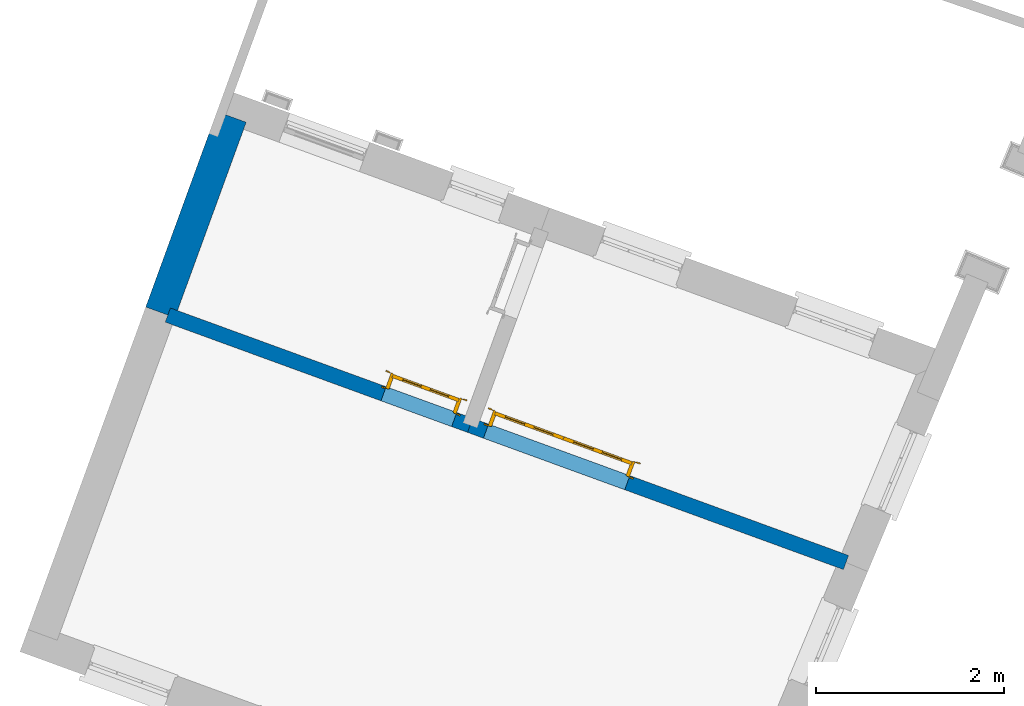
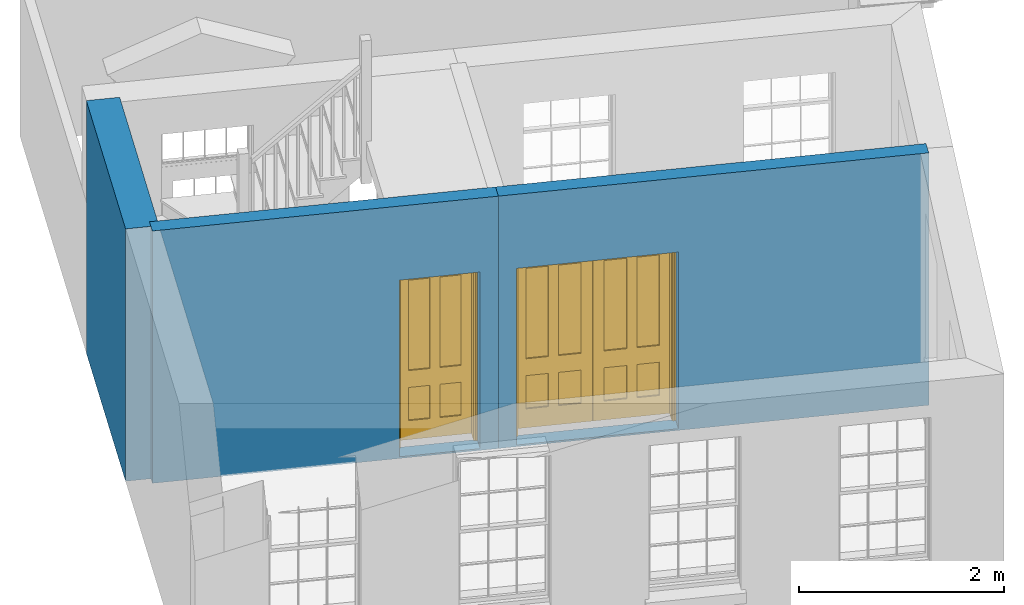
# One storey, part 2 of 6: 3 walls, 2 doors, 2 openings.
"""IFC4 building model written with IfcOpenShell, lengths in metres."""

from ifc_helpers import new_model, si_unit, frame, origin, origin_with_axes, place, context, subcontext, project, spatial, polyline, outline, extrude, faceted_brep, source, transform, mapped, material, layer, layer_set, layer_usage, type_object, type_shapes, element, fill, save


model = new_model("IFC4")

# Units and contexts
model_context = context("Model", 3, world=origin_with_axes())
body_context = subcontext(model_context, "Body", "Model", "MODEL_VIEW")
ifc_project = project(units=[si_unit("PLANEANGLEUNIT", "RADIAN"), si_unit("MASSUNIT", "GRAM", prefix="KILO"), si_unit("FORCEUNIT", "NEWTON", prefix="KILO"), si_unit("LENGTHUNIT", "METRE"), si_unit("AREAUNIT", "SQUARE_METRE"), si_unit("VOLUMEUNIT", "CUBIC_METRE")], contexts=[model_context, model_context])

# Sites, building, storey
site_1_placement = place(None, origin_with_axes())
site_1 = spatial("IfcSite", under=ifc_project, at=site_1_placement, Name="Tamar")
site_2_placement = place(site_1_placement, origin_with_axes())
site_2 = spatial("IfcSite", under=site_1, at=site_2_placement, Name="Site plot-13", CompositionType="ELEMENT")
building_placement = place(None, origin_with_axes())
building = spatial("IfcBuilding", under=site_2, at=building_placement, Name="Building plot-13", CompositionType="ELEMENT")
storey_placement = place(None, frame((0.0, 0.0, 26.0), z_axis=(0.0, 0.0, 1.0), x_axis=(1.0, 0.0, 0.0)))
storey = spatial("IfcBuildingStorey", under=building, at=storey_placement, Name="plot-13 0", CompositionType="ELEMENT", Elevation=26.0)

# Wall
ifc_material_1 = material(Name="Masonry")
ifc_layer_1 = layer(ifc_material_1, 0.33, ventilated=False)
ifc_layer_set_1 = layer_set([ifc_layer_1], Name="party_0.08_0.25")
ifc_layer_usage_1 = layer_usage(ifc_layer_set_1, "AXIS2", "POSITIVE", -0.25)
wall_type_1 = type_object("IfcWallType", Name="party_0.08_0.25", PredefinedType="SOLIDWALL", material=ifc_layer_set_1)
wall_1_placement = place(storey_placement, frame((243.29232712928, 304.172365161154, 0.0), z_axis=(0.0, 0.0, 1.0), x_axis=(-0.342734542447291, -0.939432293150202, 0.0)))
element("IfcWall", 1, at=wall_1_placement, inside=storey, type_object=wall_type_1, material=ifc_layer_usage_1, Name="party", context=body_context, shape_type="SweptSolid", body=[
    extrude(outline(polyline([(-2.44573658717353e-14, 0.0799999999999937), (3.67904406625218e-15, -0.249999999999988), (2.21233911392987, -0.249999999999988), (2.21233911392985, 0.079999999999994), (-2.44573658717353e-14, 0.0799999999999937)])), origin_with_axes(), (0.0, 0.0, 1.0), 3.0),
])

# Wall, opening, door
ifc_material_2 = material(Name="Masonry")
ifc_layer_2 = layer(ifc_material_2, 0.16, ventilated=False)
ifc_layer_set_2 = layer_set([ifc_layer_2], Name="interior_0.08_0.08")
ifc_layer_usage_2 = layer_usage(ifc_layer_set_2, "AXIS2", "POSITIVE", -0.08)
wall_type_2 = type_object("IfcWallType", Name="interior_0.08_0.08", PredefinedType="SOLIDWALL", material=ifc_layer_set_2)
wall_2_placement = place(storey_placement, frame((242.534082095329, 302.094022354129, 0.0), z_axis=(0.0, 0.0, 1.0), x_axis=(0.93943229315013, -0.342734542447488, 0.0)))
wall_2 = element("IfcWall", 2, at=wall_2_placement, inside=storey, type_object=wall_type_2, material=ifc_layer_usage_2, Name="interior", context=body_context, shape_type="SweptSolid", body=[
    extrude(outline(polyline([(-4.82679201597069e-15, 0.0799999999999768), (4.81699484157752e-15, -0.0799999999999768), (3.4219207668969, -0.0799999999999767), (3.42192076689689, 0.0799999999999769), (-4.82679201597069e-15, 0.0799999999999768)])), origin_with_axes(), (0.0, 0.0, 1.0), 3.0),
])
opening_1_placement = place(wall_2_placement, frame((2.44192076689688, 0.0, 0.0199999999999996)))
opening_1 = element("IfcOpeningElement", 3, at=opening_1_placement, cuts=wall_2, Name="My Opening", ObjectType="Opening", context=body_context, shape_type="SweptSolid", body=[
    extrude(outline(polyline([(0.0, -0.100000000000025), (0.799999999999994, -0.100000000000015), (0.800000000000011, 1.09999999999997), (1.73194791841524e-14, 1.09999999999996), (0.0, -0.100000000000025)])), origin_with_axes(), (0.0, 0.0, 1.0), 2.1),
])
door_type_1 = type_object("IfcDoorType", Name="door_inside", OperationType="SINGLE_SWING_LEFT", PredefinedType="NOTDEFINED")
shared_shape_1 = source(origin(), body_context, "Body", "Brep", [
    faceted_brep([(0.773, 0.33, 1.895), (0.66, 0.33, 1.895), (0.66, 0.33, 2.073), (0.773, 0.33, 2.073), (0.773, 0.33, 0.82), (0.66, 0.33, 0.82), (0.45, 0.33, 1.895), (0.45, 0.33, 2.073), (0.773, 0.33, 0.62), (0.66, 0.33, 0.62), (0.66, 0.315, 0.82), (0.66, 0.315, 1.895), (0.45, 0.315, 1.895), (0.35, 0.33, 1.895), (0.35, 0.33, 2.073), (0.773, 0.33, 0.225), (0.66, 0.33, 0.225), (0.45, 0.33, 0.62), (0.45, 0.33, 0.82), (0.45, 0.315, 0.82), (0.35, 0.33, 0.82), (0.14, 0.33, 2.073), (0.14, 0.33, 1.895), (0.773, 0.33, 0.0), (0.66, 0.33, 0.0), (0.66, 0.315, 0.225), (0.66, 0.315, 0.62), (0.45, 0.315, 0.62), (0.35, 0.33, 0.62), (0.35, 0.315, 0.82), (0.35, 0.315, 1.895), (0.14, 0.315, 1.895), (0.027, 0.33, 2.073), (0.027, 0.33, 1.895), (0.773, 0.292, 0.0), (0.66, 0.292, 0.0), (0.45, 0.33, 0.0), (0.45, 0.33, 0.225), (0.45, 0.315, 0.225), (0.35, 0.33, 0.225), (0.14, 0.33, 0.82), (0.14, 0.33, 0.62), (0.14, 0.315, 0.82), (0.027, 0.33, 0.82), (0.773, 0.292, 0.225), (0.66, 0.292, 0.225), (0.45, 0.292, 0.0), (0.35, 0.33, 0.0), (0.35, 0.315, 0.225), (0.35, 0.315, 0.62), (0.14, 0.315, 0.62), (0.027, 0.33, 0.62), (0.773, 0.292, 0.62), (0.66, 0.292, 0.62), (0.45, 0.292, 0.225), (0.35, 0.292, 0.0), (0.14, 0.33, 0.225), (0.14, 0.33, 0.0), (0.14, 0.315, 0.225), (0.027, 0.33, 0.225), (0.773, 0.292, 0.82), (0.66, 0.292, 0.82), (0.66, 0.307, 0.62), (0.66, 0.307, 0.225), (0.45, 0.307, 0.225), (0.35, 0.292, 0.225), (0.14, 0.292, 0.0), (0.027, 0.33, 0.0), (0.773, 0.292, 1.895), (0.66, 0.292, 1.895), (0.45, 0.292, 0.62), (0.45, 0.292, 0.82), (0.45, 0.307, 0.62), (0.35, 0.292, 0.62), (0.14, 0.292, 0.225), (0.027, 0.292, 0.0), (0.773, 0.292, 2.073), (0.66, 0.292, 2.073), (0.66, 0.307, 1.895), (0.66, 0.307, 0.82), (0.45, 0.307, 0.82), (0.35, 0.292, 0.82), (0.35, 0.307, 0.62), (0.35, 0.307, 0.225), (0.14, 0.307, 0.225), (0.027, 0.292, 0.225), (0.45, 0.292, 1.895), (0.45, 0.292, 2.073), (0.45, 0.307, 1.895), (0.35, 0.292, 1.895), (0.14, 0.292, 0.82), (0.14, 0.292, 0.62), (0.14, 0.307, 0.62), (0.027, 0.292, 0.62), (0.35, 0.292, 2.073), (0.35, 0.307, 1.895), (0.35, 0.307, 0.82), (0.14, 0.307, 0.82), (0.027, 0.292, 0.82), (0.14, 0.292, 2.073), (0.14, 0.292, 1.895), (0.14, 0.307, 1.895), (0.027, 0.292, 1.895), (0.027, 0.292, 2.073), (0.02, 0.335, 0.0), (0.005, 0.34, 0.0), (0.005, 0.34, 2.095), (0.02, 0.335, 2.08), (0.02, 0.33, 0.0), (0.0, 0.335, 0.0), (0.0, 0.335, 2.1), (0.795, 0.34, 2.095), (0.78, 0.335, 2.08), (0.02, 0.33, 2.08), (0.0, 0.33, 0.0), (-0.032, 0.345, 0.0), (-0.032, 0.345, 2.132), (0.8, 0.335, 2.1), (0.795, 0.34, 0.0), (0.78, 0.335, 0.0), (0.78, 0.33, 2.08), (0.04, 0.29, 0.0), (0.025, 0.29, 0.0), (0.025, 0.29, 2.075), (0.04, 0.29, 2.06), (-0.04, 0.34, 0.0), (-0.04, 0.34, 2.14), (0.832, 0.345, 2.132), (0.8, 0.335, 0.0), (0.78, 0.33, 0.0), (0.8, 0.33, 0.0), (0.86, 0.33, 0.0), (0.86, 0.33, 2.16), (0.8, 0.33, 2.1), (-0.06, 0.33, 2.16), (0.0, 0.33, 2.1), (-0.06, 0.33, 0.0), (-0.04, 0.345, 0.0), (-0.04, 0.345, 2.14), (0.84, 0.34, 2.14), (0.832, 0.345, 0.0), (0.84, 0.34, 0.0), (0.86, 0.345, 0.0), (0.86, 0.345, 2.16), (-0.06, 0.345, 2.16), (-0.06, 0.345, 0.0), (0.84, 0.345, 0.0), (0.84, 0.345, 2.14), (-0.025, 0.155, 0.0), (-0.025, 0.16, 0.0), (-0.025, 0.16, 2.125), (-0.025, 0.155, 2.125), (-0.017, 0.155, 0.0), (-0.017, 0.155, 2.117), (0.825, 0.16, 2.125), (0.825, 0.155, 2.125), (0.825, 0.155, 0.0), (0.845, 0.155, 0.0), (-0.045, 0.155, 2.145), (-0.045, 0.155, 0.0), (0.845, 0.155, 2.145), (0.015, 0.165, 0.0), (0.015, 0.165, 2.085), (0.817, 0.155, 2.117), (0.825, 0.16, 0.0), (0.845, 0.17, 0.0), (0.845, 0.17, 2.145), (-0.045, 0.17, 2.145), (-0.045, 0.17, 0.0), (0.02, 0.16, 0.0), (0.02, 0.16, 2.08), (0.785, 0.165, 2.085), (0.817, 0.155, 0.0), (0.8, 0.17, 0.0), (0.8, 0.17, 2.1), (0.0, 0.17, 2.1), (0.0, 0.17, 0.0), (0.035, 0.165, 0.0), (0.035, 0.165, 2.065), (0.78, 0.16, 2.08), (0.785, 0.165, 0.0), (0.775, 0.29, 2.075), (0.76, 0.29, 2.06), (0.035, 0.17, 2.065), (0.035, 0.17, 0.0), (0.765, 0.165, 2.065), (0.78, 0.16, 0.0), (0.765, 0.17, 0.0), (0.765, 0.17, 2.065), (0.765, 0.165, 0.0), (0.04, 0.17, 2.06), (0.04, 0.17, 0.0), (0.76, 0.17, 2.06), (0.76, 0.17, 0.0), (0.76, 0.29, 0.0), (0.775, 0.29, 0.0), (0.025, 0.33, 0.0), (0.025, 0.33, 2.075), (0.775, 0.33, 0.0), (0.775, 0.33, 2.075)], [[[0, 1, 2, 3]], [[1, 0, 4, 5]], [[1, 6, 7, 2]], [[8, 9, 5, 4]], [[1, 5, 10, 11]], [[6, 1, 11, 12]], [[6, 13, 14, 7]], [[15, 16, 9, 8]], [[9, 17, 18, 5]], [[5, 18, 19, 10]], [[10, 19, 12, 11]], [[18, 6, 12, 19]], [[18, 20, 13, 6]], [[21, 14, 13, 22]], [[23, 24, 16, 15]], [[9, 16, 25, 26]], [[17, 9, 26, 27]], [[17, 28, 20, 18]], [[13, 20, 29, 30]], [[22, 13, 30, 31]], [[32, 21, 22, 33]], [[34, 35, 24, 23]], [[24, 36, 37, 16]], [[16, 37, 38, 25]], [[25, 38, 27, 26]], [[37, 17, 27, 38]], [[37, 39, 28, 17]], [[40, 20, 28, 41]], [[20, 40, 42, 29]], [[31, 30, 29, 42]], [[40, 22, 31, 42]], [[33, 22, 40, 43]], [[35, 34, 44, 45]], [[35, 46, 36, 24]], [[36, 47, 39, 37]], [[28, 39, 48, 49]], [[41, 28, 49, 50]], [[43, 40, 41, 51]], [[45, 44, 52, 53]], [[46, 35, 45, 54]], [[46, 55, 47, 36]], [[56, 39, 47, 57]], [[39, 56, 58, 48]], [[50, 49, 48, 58]], [[56, 41, 50, 58]], [[51, 41, 56, 59]], [[53, 52, 60, 61]], [[45, 53, 62, 63]], [[54, 45, 63, 64]], [[55, 46, 54, 65]], [[55, 66, 57, 47]], [[59, 56, 57, 67]], [[61, 60, 68, 69]], [[70, 53, 61, 71]], [[53, 70, 72, 62]], [[72, 64, 63, 62]], [[70, 54, 64, 72]], [[65, 54, 70, 73]], [[65, 74, 66, 55]], [[67, 57, 66, 75]], [[69, 68, 76, 77]], [[61, 69, 78, 79]], [[71, 61, 79, 80]], [[73, 70, 71, 81]], [[65, 73, 82, 83]], [[74, 65, 83, 84]], [[74, 85, 75, 66]], [[86, 69, 77, 87]], [[69, 86, 88, 78]], [[88, 80, 79, 78]], [[86, 71, 80, 88]], [[81, 71, 86, 89]], [[73, 81, 90, 91]], [[73, 91, 92, 82]], [[83, 82, 92, 84]], [[91, 74, 84, 92]], [[91, 93, 85, 74]], [[89, 86, 87, 94]], [[81, 89, 95, 96]], [[90, 81, 96, 97]], [[90, 98, 93, 91]], [[94, 99, 100, 89]], [[89, 100, 101, 95]], [[101, 97, 96, 95]], [[100, 90, 97, 101]], [[100, 102, 98, 90]], [[99, 103, 102, 100]], [[32, 103, 99, 21]], [[102, 103, 32, 33]], [[98, 102, 33, 43]], [[21, 99, 94, 14]], [[94, 87, 7, 14]], [[7, 87, 77, 2]], [[76, 3, 2, 77]], [[43, 51, 93, 98]], [[51, 59, 85, 93]], [[67, 75, 85, 59]], [[34, 23, 15, 44]], [[44, 15, 8, 52]], [[52, 8, 4, 60]], [[0, 68, 60, 4]], [[0, 3, 76, 68]], [[104, 105, 106, 107]], [[104, 108, 109, 105]], [[105, 109, 110, 106]], [[107, 106, 111, 112]], [[107, 113, 108, 104]], [[114, 109, 108]], [[109, 115, 116, 110]], [[106, 110, 117, 111]], [[112, 111, 118, 119]], [[113, 107, 112, 120]], [[121, 122, 123, 124]], [[115, 109, 114, 125]], [[115, 125, 126, 116]], [[110, 116, 127, 117]], [[111, 117, 128, 118]], [[118, 128, 129, 119]], [[120, 112, 119, 129]], [[130, 129, 128]], [[130, 131, 132, 133]], [[133, 132, 134, 135]], [[135, 134, 136, 114]], [[136, 125, 114]], [[125, 137, 138, 126]], [[116, 126, 139, 127]], [[117, 127, 140, 128]], [[141, 130, 128, 140]], [[131, 130, 141]], [[131, 142, 143, 132]], [[132, 143, 144, 134]], [[134, 144, 145, 136]], [[137, 125, 136, 145]], [[143, 142, 146]], [[143, 146, 147]], [[137, 145, 144]], [[143, 147, 138]], [[138, 137, 144]], [[143, 138, 144]], [[126, 138, 147, 139]], [[127, 139, 141, 140]], [[142, 131, 141, 146]], [[139, 147, 146, 141]], [[148, 149, 150, 151]], [[149, 152, 153, 150]], [[151, 150, 154, 155]], [[155, 156, 157]], [[158, 159, 148]], [[158, 148, 151]], [[155, 157, 160]], [[158, 151, 155]], [[155, 160, 158]], [[152, 161, 162, 153]], [[150, 153, 163, 154]], [[155, 154, 164, 156]], [[156, 164, 165, 157]], [[157, 165, 166, 160]], [[160, 166, 167, 158]], [[158, 167, 168, 159]], [[161, 169, 170, 162]], [[153, 162, 171, 163]], [[154, 163, 172, 164]], [[165, 164, 173]], [[165, 173, 174, 166]], [[166, 174, 175, 167]], [[167, 175, 176, 168]], [[169, 177, 178, 170]], [[162, 170, 179, 171]], [[163, 171, 180, 172]], [[172, 180, 173, 164]], [[124, 123, 181, 182]], [[183, 178, 177, 184]], [[170, 178, 185, 179]], [[171, 179, 186, 180]], [[187, 173, 180]], [[185, 188, 187, 189]], [[188, 185, 178, 183]], [[179, 185, 189, 186]], [[189, 187, 180, 186]], [[190, 183, 184, 191]], [[192, 188, 183, 190]], [[191, 184, 122, 121]], [[124, 190, 191, 121]], [[193, 187, 188, 192]], [[182, 192, 190, 124]], [[184, 176, 122]], [[194, 195, 187, 193]], [[192, 182, 194, 193]], [[161, 176, 184]], [[114, 108, 122, 176]], [[173, 187, 195]], [[152, 149, 176, 161]], [[169, 161, 184, 177]], [[196, 122, 108]], [[176, 175, 135, 114]], [[173, 195, 129, 130]], [[176, 149, 168]], [[123, 122, 196, 197]], [[196, 108, 113, 197]], [[175, 174, 133, 135]], [[198, 129, 195]], [[133, 174, 173, 130]], [[159, 168, 149, 148]], [[181, 123, 197, 199]], [[197, 113, 120, 199]], [[199, 120, 129, 198]], [[195, 181, 199, 198]], [[195, 194, 182, 181]]]),
])
type_shapes(door_type_1, [shared_shape_1])
door_1_placement = place(storey_placement, frame((244.793827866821, 301.163148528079, 0.0199999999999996), z_axis=(0.0, 0.0, 1.0), x_axis=(0.751545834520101, -0.274187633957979, 0.0)))
door_1 = element("IfcDoor", 4, at=door_1_placement, inside=storey, type_object=door_type_1, Name="living inside door", OverallHeight=2.1, OverallWidth=0.8, context=body_context, shape_type="MappedRepresentation", body=[
    mapped(shared_shape_1, transform((0.0, 0.0, 0.0), scale=1.0)),
])
fill(opening_1, door_1)

wall_3_placement = place(storey_placement, frame((245.748744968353, 300.921211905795, 0.0), z_axis=(0.0, 0.0, 1.0), x_axis=(0.939432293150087, -0.342734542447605, 0.0)))
wall_3 = element("IfcWall", 5, at=wall_3_placement, inside=storey, type_object=wall_type_2, material=ifc_layer_usage_2, Name="interior", context=body_context, shape_type="SweptSolid", body=[
    extrude(outline(polyline([(1.18354351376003e-14, 0.0799999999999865), (-1.18807594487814e-14, -0.0799999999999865), (4.25563590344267, -0.0799999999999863), (4.25563590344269, 0.0799999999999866), (1.18354351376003e-14, 0.0799999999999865)])), origin_with_axes(), (0.0, 0.0, 1.0), 3.0),
])
opening_2_placement = place(wall_3_placement, frame((0.17999999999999, 0.0, 0.0199999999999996)))
opening_2 = element("IfcOpeningElement", 6, at=opening_2_placement, cuts=wall_3, Name="My Opening", ObjectType="Opening", context=body_context, shape_type="SweptSolid", body=[
    extrude(outline(polyline([(0.0, -0.0999999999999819), (1.60000000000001, -0.099999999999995), (1.59999999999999, 1.10000000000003), (-2.66453525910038e-14, 1.10000000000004), (0.0, -0.0999999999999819)])), origin_with_axes(), (0.0, 0.0, 1.0), 2.1),
])
door_type_2 = type_object("IfcDoorType", Name="door_inside_double", OperationType="SINGLE_SWING_LEFT", PredefinedType="NOTDEFINED")
shared_shape_2 = source(origin(), body_context, "Body", "Brep", [
    faceted_brep([(0.14, 0.307, 1.895), (0.14, 0.307, 0.82), (0.363, 0.307, 0.82), (0.363, 0.307, 1.895), (0.14, 0.292, 1.895), (0.14, 0.292, 0.82), (0.363, 0.292, 0.82), (0.363, 0.292, 1.895), (0.027, 0.292, 1.895), (0.027, 0.292, 0.82), (0.363, 0.292, 0.62), (0.14, 0.292, 0.62), (0.463, 0.292, 0.82), (0.463, 0.292, 1.895), (0.363, 0.292, 2.073), (0.14, 0.292, 2.073), (0.027, 0.292, 2.073), (0.027, 0.33, 1.895), (0.027, 0.33, 0.82), (0.027, 0.292, 0.62), (0.463, 0.292, 0.62), (0.14, 0.307, 0.62), (0.363, 0.307, 0.62), (0.463, 0.307, 0.82), (0.463, 0.307, 1.895), (0.463, 0.292, 2.073), (0.14, 0.33, 2.073), (0.363, 0.33, 2.073), (0.027, 0.33, 2.073), (0.14, 0.33, 1.895), (0.14, 0.33, 0.82), (0.027, 0.33, 0.62), (0.027, 0.292, 0.225), (0.14, 0.292, 0.225), (0.363, 0.292, 0.225), (0.463, 0.292, 0.225), (0.686, 0.292, 0.62), (0.686, 0.292, 0.82), (0.14, 0.307, 0.225), (0.363, 0.307, 0.225), (0.686, 0.307, 0.82), (0.686, 0.307, 1.895), (0.686, 0.292, 1.895), (0.686, 0.292, 2.073), (0.463, 0.33, 2.073), (0.363, 0.33, 1.895), (0.14, 0.315, 1.895), (0.14, 0.315, 0.82), (0.14, 0.33, 0.62), (0.027, 0.33, 0.225), (0.027, 0.292, 0.0), (0.14, 0.292, 0.0), (0.363, 0.292, 0.0), (0.463, 0.292, 0.0), (0.463, 0.307, 0.225), (0.463, 0.307, 0.62), (0.686, 0.307, 0.62), (0.799, 0.292, 0.62), (0.799, 0.292, 0.82), (0.799, 0.292, 1.895), (0.799, 0.292, 2.073), (0.686, 0.33, 2.073), (0.463, 0.33, 1.895), (0.363, 0.315, 1.895), (0.363, 0.315, 0.82), (0.363, 0.33, 0.82), (0.363, 0.33, 0.62), (0.14, 0.33, 0.225), (0.027, 0.33, 0.0), (0.14, 0.33, 0.0), (0.363, 0.33, 0.0), (0.463, 0.33, 0.0), (0.686, 0.292, 0.0), (0.686, 0.292, 0.225), (0.686, 0.307, 0.225), (0.799, 0.292, 0.225), (0.799, 0.33, 0.62), (0.799, 0.33, 0.82), (0.799, 0.33, 1.895), (0.799, 0.33, 2.073), (0.686, 0.33, 1.895), (0.463, 0.33, 0.82), (0.463, 0.33, 0.62), (0.363, 0.315, 0.62), (0.14, 0.315, 0.62), (0.14, 0.315, 0.225), (0.363, 0.33, 0.225), (0.463, 0.33, 0.225), (0.686, 0.33, 0.0), (0.799, 0.292, 0.0), (0.799, 0.33, 0.225), (0.686, 0.33, 0.62), (0.686, 0.33, 0.82), (0.686, 0.315, 1.895), (0.463, 0.315, 1.895), (0.463, 0.315, 0.82), (0.363, 0.315, 0.225), (0.686, 0.33, 0.225), (0.799, 0.33, 0.0), (0.686, 0.315, 0.82), (0.463, 0.315, 0.62), (0.463, 0.315, 0.225), (0.686, 0.315, 0.62), (0.686, 0.315, 0.225), (1.46, 0.33, 1.895), (1.237, 0.33, 1.895), (1.237, 0.33, 2.073), (1.46, 0.33, 2.073), (1.46, 0.315, 1.895), (1.237, 0.315, 1.895), (1.137, 0.33, 1.895), (1.137, 0.33, 2.073), (1.237, 0.292, 2.073), (1.46, 0.292, 2.073), (1.573, 0.33, 1.895), (1.573, 0.33, 2.073), (1.46, 0.33, 0.82), (1.46, 0.315, 0.82), (1.237, 0.315, 0.82), (1.237, 0.33, 0.82), (1.137, 0.33, 0.82), (0.914, 0.33, 2.073), (0.914, 0.33, 1.895), (1.137, 0.292, 2.073), (1.237, 0.292, 1.895), (1.46, 0.292, 1.895), (1.573, 0.292, 2.073), (1.573, 0.33, 0.82), (1.573, 0.292, 1.895), (1.237, 0.33, 0.62), (1.137, 0.33, 0.62), (1.137, 0.315, 0.82), (1.137, 0.315, 1.895), (0.914, 0.292, 2.073), (0.914, 0.315, 1.895), (0.801, 0.33, 2.073), (0.801, 0.33, 1.895), (1.137, 0.292, 1.895), (1.237, 0.307, 1.895), (1.46, 0.307, 1.895), (1.573, 0.292, 0.82), (1.573, 0.33, 0.62), (1.46, 0.33, 0.62), (1.237, 0.33, 0.225), (1.137, 0.33, 0.225), (0.914, 0.33, 0.82), (0.914, 0.33, 0.62), (0.914, 0.315, 0.82), (0.801, 0.292, 2.073), (0.914, 0.292, 1.895), (0.801, 0.33, 0.82), (0.801, 0.292, 1.895), (1.137, 0.292, 0.82), (1.237, 0.292, 0.82), (1.237, 0.307, 0.82), (1.46, 0.307, 0.82), (1.46, 0.292, 0.82), (1.573, 0.292, 0.62), (1.573, 0.33, 0.225), (1.46, 0.33, 0.225), (1.46, 0.315, 0.62), (1.237, 0.315, 0.62), (1.237, 0.33, 0.0), (1.137, 0.33, 0.0), (1.137, 0.315, 0.225), (1.137, 0.315, 0.62), (1.237, 0.315, 0.225), (0.914, 0.315, 0.62), (0.801, 0.33, 0.62), (0.914, 0.307, 1.895), (1.137, 0.307, 1.895), (0.801, 0.292, 0.82), (1.137, 0.292, 0.62), (1.237, 0.292, 0.62), (1.137, 0.307, 0.82), (1.46, 0.292, 0.62), (1.573, 0.292, 0.225), (1.573, 0.33, 0.0), (1.46, 0.33, 0.0), (1.46, 0.315, 0.225), (1.237, 0.292, 0.0), (1.137, 0.292, 0.0), (0.914, 0.33, 0.225), (0.914, 0.33, 0.0), (0.914, 0.315, 0.225), (0.801, 0.33, 0.225), (0.801, 0.292, 0.62), (0.914, 0.292, 0.82), (0.914, 0.307, 0.82), (1.137, 0.292, 0.225), (1.237, 0.292, 0.225), (0.914, 0.292, 0.62), (1.46, 0.292, 0.225), (1.573, 0.292, 0.0), (1.46, 0.292, 0.0), (0.914, 0.292, 0.0), (0.801, 0.33, 0.0), (0.801, 0.292, 0.225), (1.237, 0.307, 0.225), (1.237, 0.307, 0.62), (1.137, 0.307, 0.62), (1.137, 0.307, 0.225), (1.46, 0.307, 0.62), (0.914, 0.307, 0.62), (1.46, 0.307, 0.225), (0.914, 0.292, 0.225), (0.801, 0.292, 0.0), (0.914, 0.307, 0.225), (0.02, 0.335, 0.0), (0.005, 0.34, 0.0), (0.005, 0.34, 2.095), (0.02, 0.335, 2.08), (0.02, 0.33, 0.0), (0.0, 0.335, 0.0), (0.0, 0.335, 2.1), (1.595, 0.34, 2.095), (1.58, 0.335, 2.08), (0.02, 0.33, 2.08), (0.0, 0.33, 0.0), (-0.032, 0.345, 0.0), (-0.032, 0.345, 2.132), (1.6, 0.335, 2.1), (1.595, 0.34, 0.0), (1.58, 0.335, 0.0), (1.58, 0.33, 2.08), (0.025, 0.33, 0.0), (0.025, 0.33, 2.075), (-0.04, 0.34, 0.0), (0.025, 0.29, 0.0), (0.0, 0.17, 0.0), (-0.04, 0.34, 2.14), (1.632, 0.345, 2.132), (1.6, 0.335, 0.0), (1.58, 0.33, 0.0), (1.575, 0.33, 2.075), (0.025, 0.29, 2.075), (-0.06, 0.33, 0.0), (0.035, 0.17, 0.0), (0.0, 0.17, 2.1), (0.0, 0.33, 2.1), (-0.04, 0.345, 0.0), (-0.04, 0.345, 2.14), (1.64, 0.34, 2.14), (1.632, 0.345, 0.0), (1.6, 0.33, 0.0), (1.575, 0.33, 0.0), (1.575, 0.29, 2.075), (0.04, 0.29, 0.0), (0.04, 0.29, 2.06), (-0.06, 0.345, 0.0), (-0.06, 0.33, 2.16), (0.015, 0.165, 0.0), (0.04, 0.17, 0.0), (-0.045, 0.17, 2.145), (-0.045, 0.17, 0.0), (1.6, 0.17, 2.1), (1.6, 0.33, 2.1), (-0.06, 0.345, 2.16), (1.64, 0.345, 2.14), (1.64, 0.34, 0.0), (1.6, 0.17, 0.0), (1.575, 0.29, 0.0), (1.56, 0.29, 2.06), (0.04, 0.17, 2.06), (1.66, 0.33, 2.16), (-0.017, 0.155, 0.0), (-0.025, 0.16, 0.0), (0.02, 0.16, 0.0), (0.035, 0.165, 0.0), (0.035, 0.17, 2.065), (1.645, 0.17, 2.145), (-0.045, 0.155, 2.145), (-0.045, 0.155, 0.0), (1.66, 0.345, 2.16), (1.64, 0.345, 0.0), (1.66, 0.33, 0.0), (1.565, 0.17, 0.0), (1.56, 0.29, 0.0), (1.56, 0.17, 2.06), (-0.017, 0.155, 2.117), (-0.025, 0.16, 2.125), (0.015, 0.165, 2.085), (0.02, 0.16, 2.08), (0.035, 0.165, 2.065), (1.565, 0.17, 2.065), (1.645, 0.17, 0.0), (1.645, 0.155, 2.145), (-0.025, 0.155, 0.0), (1.66, 0.345, 0.0), (1.585, 0.165, 0.0), (1.56, 0.17, 0.0), (1.617, 0.155, 2.117), (1.625, 0.16, 2.125), (-0.025, 0.155, 2.125), (1.585, 0.165, 2.085), (1.58, 0.16, 2.08), (1.565, 0.165, 2.065), (1.625, 0.16, 0.0), (1.645, 0.155, 0.0), (1.625, 0.155, 2.125), (1.617, 0.155, 0.0), (1.565, 0.165, 0.0), (1.58, 0.16, 0.0), (1.625, 0.155, 0.0)], [[[0, 1, 2, 3]], [[1, 0, 4, 5]], [[2, 1, 5, 6]], [[6, 7, 3, 2]], [[7, 4, 0, 3]], [[4, 8, 9, 5]], [[10, 6, 5, 11]], [[6, 12, 13, 7]], [[14, 15, 4, 7]], [[15, 16, 8, 4]], [[9, 8, 17, 18]], [[5, 9, 19, 11]], [[10, 20, 12, 6]], [[10, 11, 21, 22]], [[13, 12, 23, 24]], [[7, 13, 25, 14]], [[26, 15, 14, 27]], [[28, 16, 15, 26]], [[8, 16, 28, 17]], [[17, 29, 30, 18]], [[18, 31, 19, 9]], [[11, 19, 32, 33]], [[34, 35, 20, 10]], [[20, 36, 37, 12]], [[11, 33, 38, 21]], [[39, 22, 21, 38]], [[34, 10, 22, 39]], [[12, 37, 40, 23]], [[24, 23, 40, 41]], [[42, 13, 24, 41]], [[13, 42, 43, 25]], [[14, 25, 44, 27]], [[26, 27, 45, 29]], [[28, 26, 29, 17]], [[30, 29, 46, 47]], [[18, 30, 48, 31]], [[31, 49, 32, 19]], [[33, 32, 50, 51]], [[52, 53, 35, 34]], [[20, 35, 54, 55]], [[36, 20, 55, 56]], [[36, 57, 58, 37]], [[33, 34, 39, 38]], [[37, 42, 41, 40]], [[42, 59, 60, 43]], [[44, 25, 43, 61]], [[62, 45, 27, 44]], [[29, 45, 63, 46]], [[46, 63, 64, 47]], [[65, 30, 47, 64]], [[30, 65, 66, 48]], [[31, 48, 67, 49]], [[68, 50, 32, 49]], [[68, 69, 51, 50]], [[34, 33, 51, 52]], [[53, 52, 70, 71]], [[53, 72, 73, 35]], [[35, 73, 74, 54]], [[55, 54, 74, 56]], [[73, 36, 56, 74]], [[73, 75, 57, 36]], [[57, 76, 77, 58]], [[37, 58, 59, 42]], [[78, 79, 60, 59]], [[60, 79, 61, 43]], [[80, 62, 44, 61]], [[81, 65, 45, 62]], [[45, 65, 64, 63]], [[82, 66, 65, 81]], [[48, 66, 83, 84]], [[67, 48, 84, 85]], [[49, 67, 69, 68]], [[52, 51, 69, 70]], [[71, 70, 86, 87]], [[72, 53, 71, 88]], [[72, 89, 75, 73]], [[75, 90, 76, 57]], [[76, 91, 92, 77]], [[78, 59, 58, 77]], [[78, 80, 61, 79]], [[62, 80, 93, 94]], [[81, 62, 94, 95]], [[87, 86, 66, 82]], [[91, 82, 81, 92]], [[66, 86, 96, 83]], [[84, 83, 96, 85]], [[86, 67, 85, 96]], [[67, 86, 70, 69]], [[88, 71, 87, 97]], [[89, 72, 88, 98]], [[89, 98, 90, 75]], [[90, 97, 91, 76]], [[80, 78, 77, 92]], [[80, 92, 99, 93]], [[99, 95, 94, 93]], [[92, 81, 95, 99]], [[87, 82, 100, 101]], [[82, 91, 102, 100]], [[97, 87, 101, 103]], [[98, 88, 97, 90]], [[91, 97, 103, 102]], [[103, 101, 100, 102]], [[104, 105, 106, 107]], [[105, 104, 108, 109]], [[105, 110, 111, 106]], [[106, 112, 113, 107]], [[114, 104, 107, 115]], [[104, 116, 117, 108]], [[117, 118, 109, 108]], [[119, 105, 109, 118]], [[119, 120, 110, 105]], [[121, 111, 110, 122]], [[123, 112, 106, 111]], [[124, 125, 113, 112]], [[126, 115, 107, 113]], [[104, 114, 127, 116]], [[114, 115, 126, 128]], [[116, 119, 118, 117]], [[129, 130, 120, 119]], [[110, 120, 131, 132]], [[121, 133, 123, 111]], [[122, 110, 132, 134]], [[135, 121, 122, 136]], [[137, 124, 112, 123]], [[125, 124, 138, 139]], [[125, 128, 126, 113]], [[114, 128, 140, 127]], [[141, 142, 116, 127]], [[142, 129, 119, 116]], [[143, 144, 130, 129]], [[145, 120, 130, 146]], [[120, 145, 147, 131]], [[134, 132, 131, 147]], [[135, 148, 133, 121]], [[123, 133, 149, 137]], [[145, 122, 134, 147]], [[136, 122, 145, 150]], [[151, 148, 135, 136]], [[152, 153, 124, 137]], [[124, 153, 154, 138]], [[138, 154, 155, 139]], [[156, 125, 139, 155]], [[156, 140, 128, 125]], [[157, 141, 127, 140]], [[158, 159, 142, 141]], [[129, 142, 160, 161]], [[162, 163, 144, 143]], [[130, 144, 164, 165]], [[143, 129, 161, 166]], [[146, 130, 165, 167]], [[150, 145, 146, 168]], [[133, 148, 151, 149]], [[137, 149, 169, 170]], [[171, 151, 136, 150]], [[172, 173, 153, 152]], [[152, 137, 170, 174]], [[153, 156, 155, 154]], [[175, 157, 140, 156]], [[176, 158, 141, 157]], [[177, 178, 159, 158]], [[142, 159, 179, 160]], [[179, 166, 161, 160]], [[180, 181, 163, 162]], [[182, 144, 163, 183]], [[178, 162, 143, 159]], [[144, 182, 184, 164]], [[167, 165, 164, 184]], [[159, 143, 166, 179]], [[182, 146, 167, 184]], [[168, 146, 182, 185]], [[150, 168, 186, 171]], [[149, 151, 171, 187]], [[149, 187, 188, 169]], [[169, 188, 174, 170]], [[189, 190, 173, 172]], [[173, 175, 156, 153]], [[172, 152, 187, 191]], [[187, 152, 174, 188]], [[192, 176, 157, 175]], [[193, 177, 158, 176]], [[193, 194, 178, 177]], [[181, 180, 190, 189]], [[181, 195, 183, 163]], [[194, 180, 162, 178]], [[185, 182, 183, 196]], [[168, 185, 197, 186]], [[187, 171, 186, 191]], [[173, 190, 198, 199]], [[189, 172, 200, 201]], [[175, 173, 199, 202]], [[172, 191, 203, 200]], [[194, 193, 176, 192]], [[192, 175, 202, 204]], [[180, 194, 192, 190]], [[189, 205, 195, 181]], [[196, 183, 195, 206]], [[196, 206, 197, 185]], [[191, 186, 197, 205]], [[190, 192, 204, 198]], [[199, 198, 204, 202]], [[201, 200, 203, 207]], [[205, 189, 201, 207]], [[191, 205, 207, 203]], [[205, 197, 206, 195]], [[208, 209, 210, 211]], [[208, 212, 213, 209]], [[209, 213, 214, 210]], [[211, 210, 215, 216]], [[211, 217, 212, 208]], [[218, 213, 212]], [[213, 219, 220, 214]], [[210, 214, 221, 215]], [[216, 215, 222, 223]], [[217, 211, 216, 224]], [[225, 212, 217, 226]], [[219, 213, 218, 227]], [[218, 212, 228, 229]], [[219, 227, 230, 220]], [[214, 220, 231, 221]], [[215, 221, 232, 222]], [[222, 232, 233, 223]], [[224, 216, 223, 233]], [[226, 217, 224, 234]], [[225, 228, 212]], [[235, 228, 225, 226]], [[236, 227, 218]], [[237, 229, 228]], [[229, 238, 239, 218]], [[227, 240, 241, 230]], [[220, 230, 242, 231]], [[221, 231, 243, 232]], [[244, 233, 232]], [[234, 224, 233, 245]], [[246, 235, 226, 234]], [[247, 228, 235, 248]], [[240, 227, 236, 249]], [[239, 250, 236, 218]], [[251, 229, 237]], [[252, 237, 228, 247]], [[253, 238, 229, 254]], [[238, 255, 256, 239]], [[241, 240, 257]], [[230, 241, 258, 242]], [[231, 242, 259, 243]], [[259, 244, 232, 243]], [[260, 261, 233, 244]], [[245, 233, 261]], [[261, 246, 234, 245]], [[248, 235, 246, 262]], [[248, 263, 252, 247]], [[250, 257, 249, 236]], [[240, 249, 257]], [[256, 264, 250, 239]], [[265, 266, 229, 251]], [[267, 251, 237, 268]], [[263, 269, 237, 252]], [[270, 255, 238, 253]], [[229, 266, 254]], [[271, 253, 254, 272]], [[256, 255, 260, 244]], [[273, 241, 257]], [[273, 258, 241]], [[242, 258, 274, 259]], [[275, 244, 259]], [[260, 276, 261]], [[261, 277, 262, 246]], [[262, 278, 263, 248]], [[264, 273, 257, 250]], [[244, 275, 264, 256]], [[266, 265, 279, 280]], [[265, 251, 281, 279]], [[251, 267, 282, 281]], [[269, 283, 268, 237]], [[267, 268, 283, 282]], [[278, 284, 269, 263]], [[285, 260, 255, 270]], [[286, 270, 253, 271]], [[272, 254, 266, 287]], [[271, 272, 287]], [[273, 274, 258]], [[288, 275, 259, 274]], [[276, 260, 289]], [[277, 261, 276, 290]], [[278, 262, 277, 290]], [[275, 288, 273, 264]], [[280, 279, 291, 292]], [[287, 266, 280, 293]], [[279, 281, 294, 291]], [[281, 282, 295, 294]], [[284, 296, 283, 269]], [[282, 283, 296, 295]], [[290, 276, 284, 278]], [[285, 297, 260]], [[298, 285, 270, 286]], [[299, 286, 271]], [[271, 287, 293]], [[273, 288, 274]], [[300, 289, 260, 297]], [[301, 276, 289, 302]], [[292, 291, 300, 297]], [[293, 280, 292, 299]], [[291, 294, 289, 300]], [[294, 295, 302, 289]], [[296, 284, 276, 301]], [[295, 296, 301, 302]], [[303, 297, 285, 298]], [[299, 298, 286]], [[271, 293, 299]], [[299, 292, 297, 303]], [[299, 303, 298]]]),
])
type_shapes(door_type_2, [shared_shape_2])
door_2_placement = place(storey_placement, frame((245.883569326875, 300.765576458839, 0.0199999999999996), z_axis=(0.0, 0.0, 1.0), x_axis=(1.50309166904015, -0.548375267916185, 0.0)))
door_2 = element("IfcDoor", 7, at=door_2_placement, inside=storey, type_object=door_type_2, Name="kitchen living inside door", OverallHeight=2.1, OverallWidth=1.6, context=body_context, shape_type="MappedRepresentation", body=[
    mapped(shared_shape_2, transform((0.0, 0.0, 0.0), scale=1.0)),
])
fill(opening_2, door_2)

save(model, "model.ifc")
